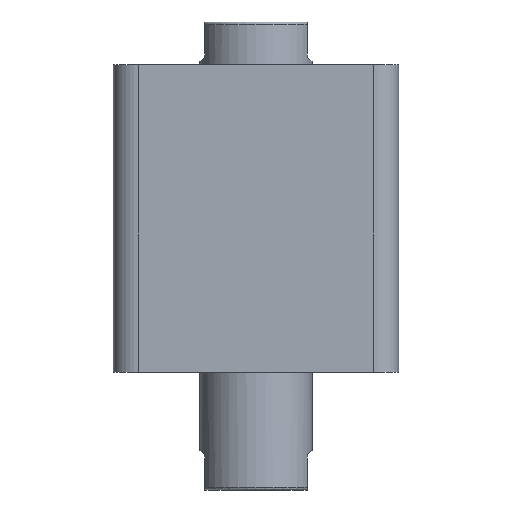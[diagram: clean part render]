
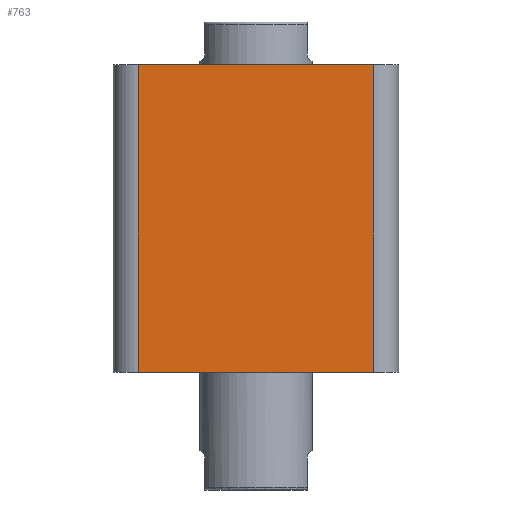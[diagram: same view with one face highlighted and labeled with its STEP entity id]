
A CAD part, front view. The second image highlights one B-rep face of the part: STEP entity #763.
In plain terms, the highlighted planar face has unit normal (0, -1, 0).
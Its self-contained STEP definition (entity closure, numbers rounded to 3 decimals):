
#58 = DIRECTION ( 'NONE',  ( 0., 0., 1. ) ) ;
#59 = DIRECTION ( 'NONE',  ( 0., 1., 0. ) ) ;
#61 = PLANE ( 'NONE',  #2941 ) ;
#63 = CARTESIAN_POINT ( 'NONE',  ( -57., -57., 123. ) ) ;
#242 = DIRECTION ( 'NONE',  ( 0., 0., 1. ) ) ;
#243 = CARTESIAN_POINT ( 'NONE',  ( 47., -57., 123. ) ) ;
#244 = CARTESIAN_POINT ( 'NONE',  ( -57., -57., 123. ) ) ;
#245 = DIRECTION ( 'NONE',  ( 1., 0., 0. ) ) ;
#275 = CARTESIAN_POINT ( 'NONE',  ( -57., -57., 0. ) ) ;
#277 = DIRECTION ( 'NONE',  ( 1., 0., 0. ) ) ;
#280 = CARTESIAN_POINT ( 'NONE',  ( -47., -57., 0. ) ) ;
#295 = CARTESIAN_POINT ( 'NONE',  ( -47., -57., 123. ) ) ;
#297 = CARTESIAN_POINT ( 'NONE',  ( 47., -57., 123. ) ) ;
#300 = CARTESIAN_POINT ( 'NONE',  ( 47., -57., 0. ) ) ;
#311 = CARTESIAN_POINT ( 'NONE',  ( -47., -57., 123. ) ) ;
#312 = DIRECTION ( 'NONE',  ( 0., 0., -1. ) ) ;
#763 = ADVANCED_FACE ( 'NONE', ( #2509 ), #61, .F. ) ;
#1072 = ORIENTED_EDGE ( 'NONE', *, *, #1131, .F. ) ;
#1073 = ORIENTED_EDGE ( 'NONE', *, *, #1130, .T. ) ;
#1074 = ORIENTED_EDGE ( 'NONE', *, *, #1157, .T. ) ;
#1130 = EDGE_CURVE ( 'NONE', #2341, #2335, #2588, .T. ) ;
#1131 = EDGE_CURVE ( 'NONE', #2340, #2335, #2594, .T. ) ;
#1157 = EDGE_CURVE ( 'NONE', #2087, #2341, #2608, .T. ) ;
#2087 = VERTEX_POINT ( 'NONE', #280 ) ;
#2272 = EDGE_LOOP ( 'NONE', ( #1074, #1073, #1072, #2351 ) ) ;
#2335 = VERTEX_POINT ( 'NONE', #297 ) ;
#2340 = VERTEX_POINT ( 'NONE', #295 ) ;
#2341 = VERTEX_POINT ( 'NONE', #300 ) ;
#2351 = ORIENTED_EDGE ( 'NONE', *, *, #2654, .T. ) ;
#2509 = FACE_OUTER_BOUND ( 'NONE', #2272, .T. ) ;
#2588 = LINE ( 'NONE', #243, #2595 ) ;
#2594 = LINE ( 'NONE', #244, #2597 ) ;
#2595 = VECTOR ( 'NONE', #242, 1000. ) ;
#2597 = VECTOR ( 'NONE', #245, 1000. ) ;
#2606 = VECTOR ( 'NONE', #277, 1000. ) ;
#2608 = LINE ( 'NONE', #275, #2606 ) ;
#2610 = VECTOR ( 'NONE', #312, 1000. ) ;
#2612 = LINE ( 'NONE', #311, #2610 ) ;
#2654 = EDGE_CURVE ( 'NONE', #2340, #2087, #2612, .T. ) ;
#2941 = AXIS2_PLACEMENT_3D ( 'NONE', #63, #59, #58 ) ;
